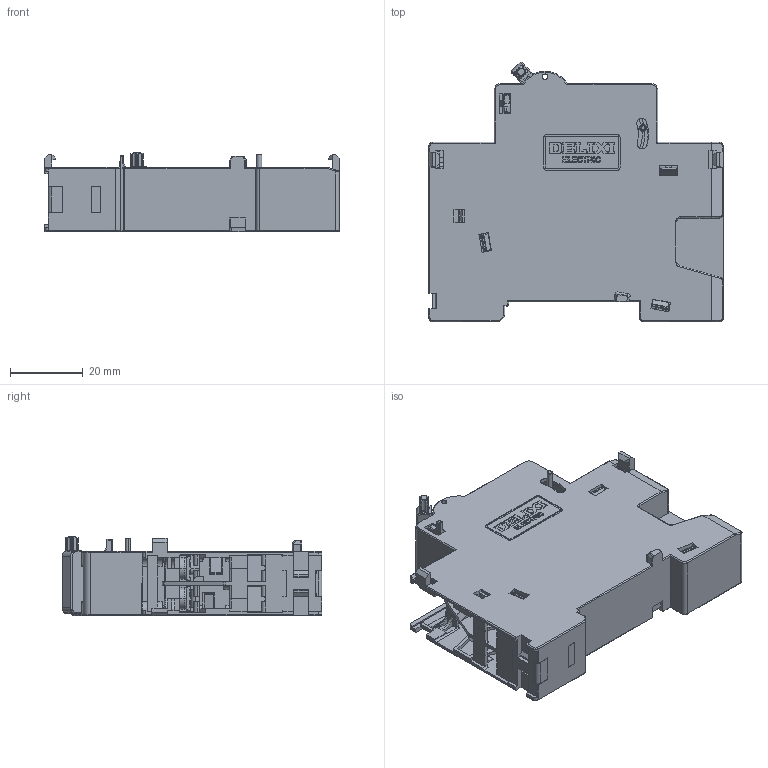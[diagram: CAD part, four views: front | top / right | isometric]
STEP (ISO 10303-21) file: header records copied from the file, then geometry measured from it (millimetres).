
FILE_DESCRIPTION((''),'2;1');
FILE_NAME('2297007800_SW0001','2023-11-08T',('dufeng.zhai'),(''),'PRO/ENGINEER BY PARAMETRIC TECHNOLOGY CORPORATION, 2015440','PRO/ENGINEER BY PARAMETRIC TECHNOLOGY CORPORATION, 2015440','');
FILE_SCHEMA(('CONFIG_CONTROL_DESIGN'));
Products named in the file (1): 2297007800_SW0001
Bounding box: 80.8 x 71.31 x 21.85 mm (x, y, z)
Volume: 57376 mm3; surface area: 37517.2 mm2
Topology: 1 solids, 1 shells, 2656 faces, 7529 edges, 4818 vertices
Faces by surface type: plane 1724, cylinder 622, cone 91, torus 68, bspline 65, sphere 43, extrusion 43
Entity records: 92346 total; most frequent: CARTESIAN_POINT 23693, ORIENTED_EDGE 15054, DIRECTION 13407, EDGE_CURVE 7527, VECTOR 5645, LINE 5602, VERTEX_POINT 4818, AXIS2_PLACEMENT_3D 3881
